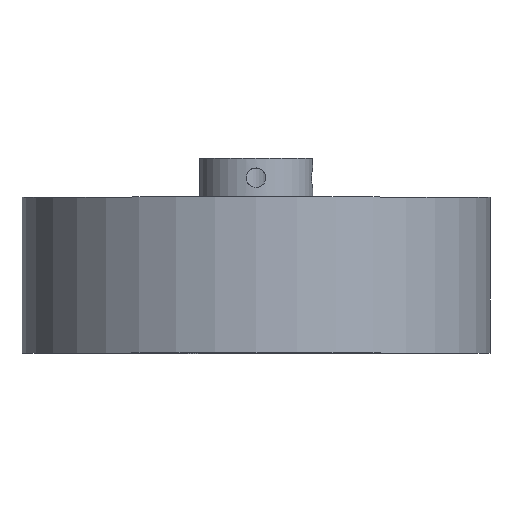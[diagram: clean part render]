
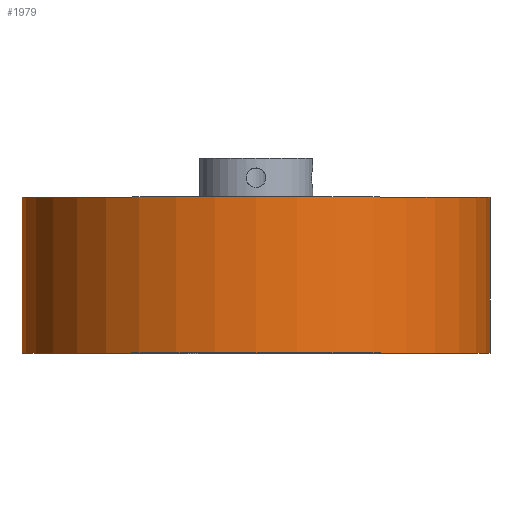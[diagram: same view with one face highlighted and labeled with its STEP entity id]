
A CAD part, top view. The second image highlights one B-rep face of the part: STEP entity #1979.
In plain terms, the highlighted cylindrical face has radius 76.2 mm (diameter 152.4 mm), a full revolution.
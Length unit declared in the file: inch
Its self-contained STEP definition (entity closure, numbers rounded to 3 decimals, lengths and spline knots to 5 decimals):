
#267=FACE_OUTER_BOUND('',#361,.T.);
#361=EDGE_LOOP('',(#1620,#1621,#1622,#1623));
#547=LINE('',#3314,#693);
#693=VECTOR('',#2768,3.);
#812=CIRCLE('',#2209,3.);
#813=CIRCLE('',#2210,3.);
#988=VERTEX_POINT('',#3311);
#989=VERTEX_POINT('',#3313);
#1259=EDGE_CURVE('',#988,#988,#812,.T.);
#1260=EDGE_CURVE('',#988,#989,#547,.T.);
#1261=EDGE_CURVE('',#989,#989,#813,.T.);
#1620=ORIENTED_EDGE('',*,*,#1259,.F.);
#1621=ORIENTED_EDGE('',*,*,#1260,.T.);
#1622=ORIENTED_EDGE('',*,*,#1261,.T.);
#1623=ORIENTED_EDGE('',*,*,#1260,.F.);
#1889=CYLINDRICAL_SURFACE('',#2208,3.);
#1979=ADVANCED_FACE('',(#267),#1889,.T.);
#2208=AXIS2_PLACEMENT_3D('',#3310,#2764,#2765);
#2209=AXIS2_PLACEMENT_3D('',#3312,#2766,#2767);
#2210=AXIS2_PLACEMENT_3D('',#3315,#2769,#2770);
#2764=DIRECTION('center_axis',(0.,1.,0.));
#2765=DIRECTION('ref_axis',(-1.,0.,0.));
#2766=DIRECTION('center_axis',(0.,1.,0.));
#2767=DIRECTION('ref_axis',(-1.,0.,0.));
#2768=DIRECTION('',(0.,-1.,0.));
#2769=DIRECTION('center_axis',(0.,1.,0.));
#2770=DIRECTION('ref_axis',(-1.,0.,0.));
#3310=CARTESIAN_POINT('Origin',(0.,0.,0.));
#3311=CARTESIAN_POINT('',(3.,2.,0.));
#3312=CARTESIAN_POINT('Origin',(0.,2.,0.));
#3313=CARTESIAN_POINT('',(3.,0.,0.));
#3314=CARTESIAN_POINT('',(3.,0.,0.));
#3315=CARTESIAN_POINT('Origin',(0.,0.,0.));
